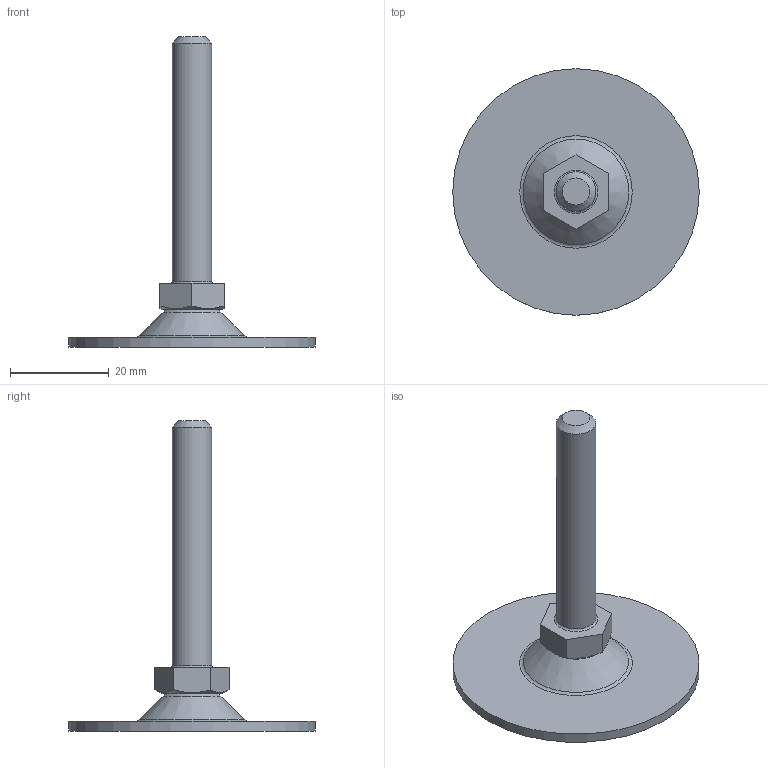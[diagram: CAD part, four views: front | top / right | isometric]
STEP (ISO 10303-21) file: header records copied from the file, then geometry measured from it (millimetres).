
FILE_DESCRIPTION(('STEP AP203'), '1');
FILE_NAME('A00050.1050816', '', ('UNSPECIFIED'), ('UNSPECIFIED'), 'C3D Converter', 'C3D Toolkit', '');
FILE_SCHEMA(('CONFIG_CONTROL_DESIGN'));
Length unit declared in the file: millimetre
Products named in the file (4): A00050.1050850; A00050.1050
Assembly tree (3 placements, depth 2):
  A00050.1050850
    A00050.1050
    (unnamed)
    (unnamed)
Bounding box: 50 x 50 x 62.92 mm (x, y, z)
Volume: 7435.1 mm3; surface area: 6638 mm2
Topology: 3 solids, 3 shells, 58 faces, 130 edges, 82 vertices
Faces by surface type: plane 28, torus 8, bspline 8, cone 7, cylinder 6, sphere 1
Full cylindrical faces by diameter (mm): 3.3 x1, 4 x1, 4.5 x1, 8 x2, 50 x1
Entity records: 2171 total; most frequent: CARTESIAN_POINT 784, DIRECTION 242, ORIENTED_EDGE 214, EDGE_CURVE 107, AXIS2_PLACEMENT_3D 95, EDGE_LOOP 86, VERTEX_POINT 81, ADVANCED_FACE 58
